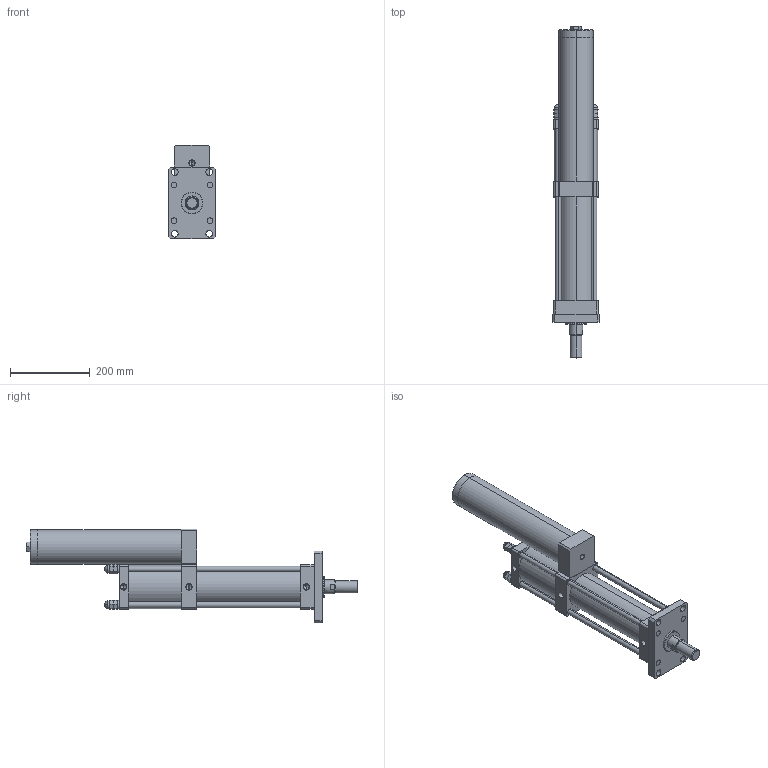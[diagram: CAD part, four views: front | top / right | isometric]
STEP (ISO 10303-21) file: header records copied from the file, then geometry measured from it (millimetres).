
FILE_DESCRIPTION (( 'STEP AP203' ), '1' );
FILE_NAME ('MPT-80-200-5-8T.STEP', '2016-03-11T03:37:30', ( 'WIN' ), ( '' ), 'SwSTEP 2.0', 'SolidWorks 2014', '' );
FILE_SCHEMA (( 'CONFIG_CONTROL_DESIGN' ));
Length unit declared in the file: millimetre
Products named in the file (1): MPT-80-200-5-8T
Bounding box: 118 x 835 x 235 mm (x, y, z)
Volume: 5534445.7 mm3; surface area: 720929.5 mm2
Topology: 20 solids, 20 shells, 400 faces, 968 edges, 562 vertices
Faces by surface type: plane 187, cylinder 90, torus 48, bspline 48, cone 27
Entity records: 12732 total; most frequent: CARTESIAN_POINT 3707, DIRECTION 1901, ORIENTED_EDGE 1804, EDGE_CURVE 902, AXIS2_PLACEMENT_3D 700, VERTEX_POINT 562, VECTOR 501, LINE 501
